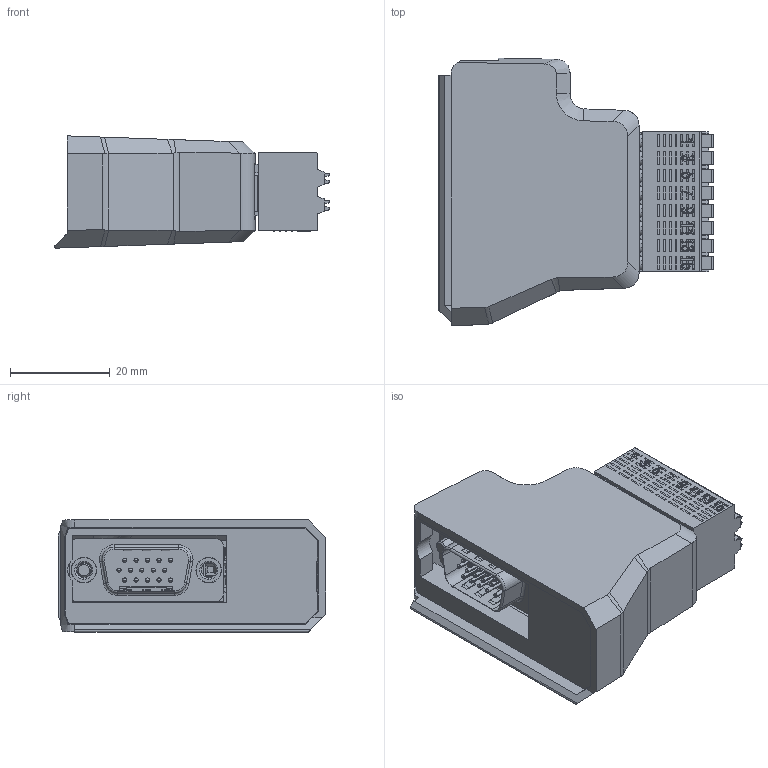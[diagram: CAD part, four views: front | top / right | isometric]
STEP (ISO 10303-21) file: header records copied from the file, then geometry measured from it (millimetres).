
FILE_DESCRIPTION((''),'2;1');
FILE_NAME('RR_ENCODER-BREAKOUT-A_SW0002','2026-05-08T13:58:01',('summne01'),(''),'CREO PARAMETRIC BY PTC INC, 2023154','CREO PARAMETRIC BY PTC INC, 2023154','');
FILE_SCHEMA(('AP242_MANAGED_MODEL_BASED_3D_ENGINEERING_MIM_LF { 1 0 10303 442 1 1 4 }'));
Products named in the file (1): RR_ENCODER-BREAKOUT-A_SW0002
Bounding box: 55 x 53.54 x 22.48 mm (x, y, z)
Volume: 18840.9 mm3; surface area: 24916.4 mm2
Topology: 4 solids, 8 shells, 4419 faces, 12935 edges, 8581 vertices
Faces by surface type: plane 2799, cylinder 1076, extrusion 299, torus 118, cone 65, sphere 62
Entity records: 179043 total; most frequent: CARTESIAN_POINT 34631, ORIENTED_EDGE 25750, DIRECTION 22754, EDGE_CURVE 12875, VECTOR 9028, LINE 8729, VERTEX_POINT 8581, AXIS2_PLACEMENT_3D 6863
